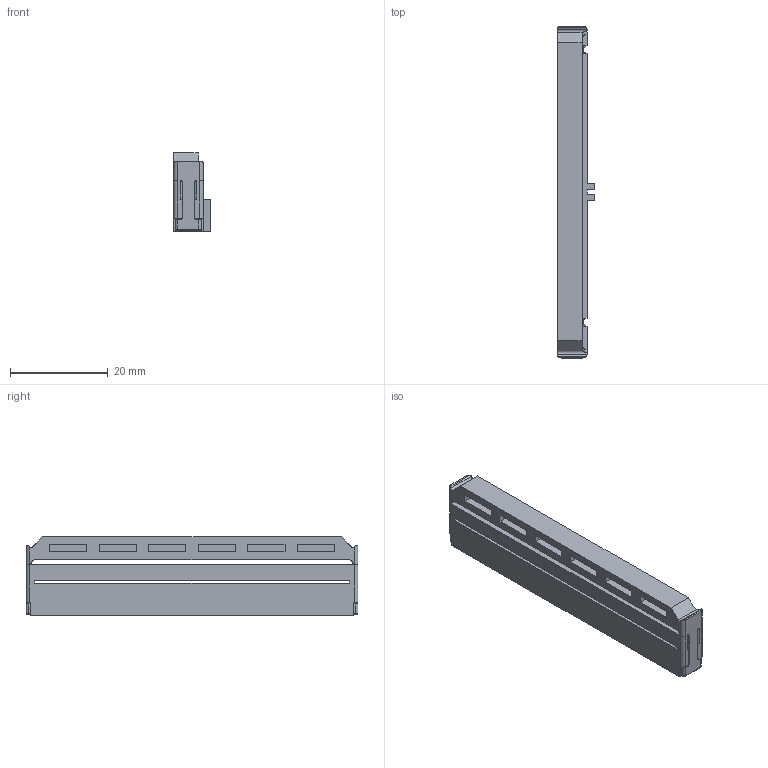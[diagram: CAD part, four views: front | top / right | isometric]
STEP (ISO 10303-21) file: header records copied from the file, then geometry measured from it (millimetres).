
FILE_DESCRIPTION(/* description */ (''),/* implementation_level */ '2;1');
FILE_NAME(/* name */ '3425-6650-01',/* time_stamp */ '2006-11-28T16:41:47-06:00',/* author */ (''),/* organization */ (''),/* preprocessor_version */ 'ST-DEVELOPER v9',/* originating_system */ 'UGS - NX 3.0',/* authorisation */ '');
FILE_SCHEMA (('CONFIG_CONTROL_DESIGN'));
Length unit declared in the file: inch
Products named in the file (1): a0tt8A57g3yz
Bounding box: 7.62 x 68.07 x 16.13 mm (x, y, z)
Volume: 5109.9 mm3; surface area: 5030.9 mm2
Topology: 1 solids, 1 shells, 501 faces, 1312 edges, 856 vertices
Faces by surface type: plane 422, cylinder 61, bspline 14, torus 4
Entity records: 16174 total; most frequent: CARTESIAN_POINT 3932, ORIENTED_EDGE 2624, DIRECTION 2248, EDGE_CURVE 1312, LINE 1124, VECTOR 1124, VERTEX_POINT 856, EDGE_LOOP 568
